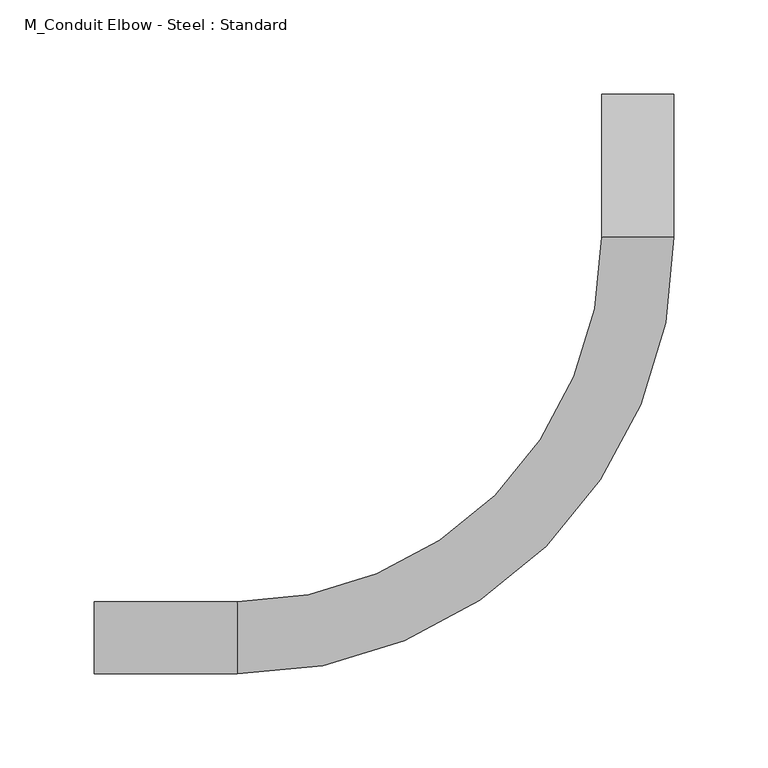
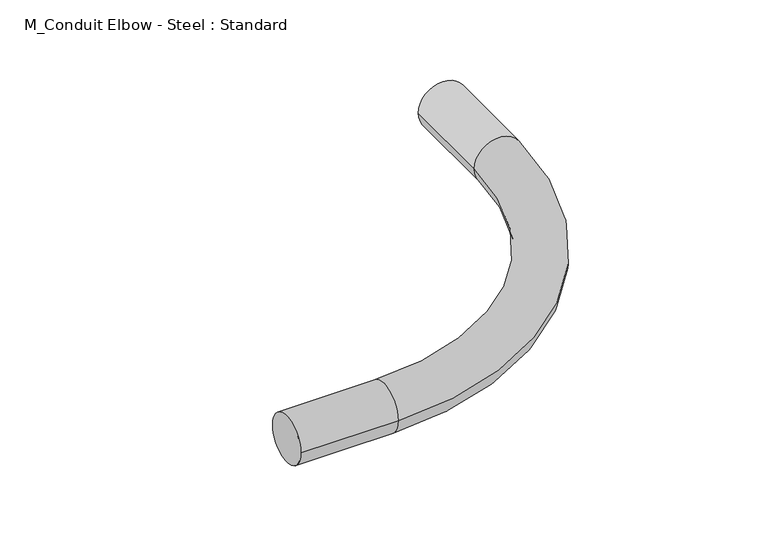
"""IFC4 building model written with IfcOpenShell, lengths in millimetres: cable carrier fitting geometry, M_Conduit Elbow - Steel : Standard."""

from ifc_helpers import new_model, si_unit, point, frame, origin, place, context, project, spatial, circle_curve, ellipse_curve, trimmed, source, transform, mapped, element, save
from ifc_brep_helpers import plane_surface, cylinder_surface, revolved_surface, advanced_brep


def m_conduit_elbow_steel_standard_79cfaf55(model_context):
    return source(origin(), model_context, "Body", "AdvancedBrep", [
        advanced_brep(
        [(-288.925, -19.177, 0.0), (-288.925, 19.177, 0.0), (-212.725, -19.177, 0.0), (-212.725, 19.177, 0.0), (-19.177, 212.725, 0.0), (19.177, 212.725, 0.0), (19.177, 288.925, 0.0), (-19.177, 288.925, 0.0)],
        [
            (0, 1, circle_curve(frame((-288.925, 0.0, 0.0), z_axis=(-1.0, 0.0, 0.0), x_axis=(0.0, 1.0, 0.0)), 19.177)),
            (1, 0, circle_curve(frame((-288.925, 0.0, 0.0), z_axis=(-1.0, 0.0, 0.0), x_axis=(0.0, 1.0, 0.0)), 19.177)),
            (0, 2),
            (2, 3, circle_curve(frame((-212.725, 0.0, 0.0), z_axis=(-1.0, 0.0, 0.0), x_axis=(0.0, 1.0, 0.0)), 19.177)),
            (3, 1),
            (3, 2, circle_curve(frame((-212.725, 0.0, 0.0), z_axis=(-1.0, 0.0, 0.0), x_axis=(0.0, 1.0, 0.0)), 19.177)),
            (4, 3, circle_curve(frame((-212.725, 212.725, 0.0), z_axis=(0.0, 0.0, -1.0), x_axis=(0.0, -1.0, 0.0)), 193.548)),
            (2, 5, circle_curve(frame((-212.725, 212.725, 0.0), z_axis=(0.0, 0.0, 1.0), x_axis=(0.0, -1.0, 0.0)), 231.902)),
            (5, 4, circle_curve(frame((0.0, 212.725, 0.0), z_axis=(0.0, -1.0, 0.0), x_axis=(-1.0, 0.0, 0.0)), 19.177)),
            (4, 5, circle_curve(frame((0.0, 212.725, 0.0), z_axis=(0.0, -1.0, 0.0), x_axis=(-1.0, 0.0, 0.0)), 19.177)),
            (6, 7, circle_curve(frame((0.0, 288.925, 0.0), z_axis=(0.0, 1.0, 0.0), x_axis=(-1.0, 0.0, 0.0)), 19.177)),
            (7, 6, circle_curve(frame((0.0, 288.925, 0.0), z_axis=(0.0, 1.0, 0.0), x_axis=(-1.0, 0.0, 0.0)), 19.177)),
            (5, 6),
            (7, 4),
        ],
        [
            plane_surface(frame((-288.925, 0.0, 0.0), z_axis=(-1.0, 0.0, 0.0), x_axis=(0.0, 0.0, 1.0))),
            cylinder_surface(frame((-288.925, 0.0, 0.0), z_axis=(-1.0, 0.0, 0.0), x_axis=(0.0, 1.0, 0.0)), 19.177),
            revolved_surface(trimmed(ellipse_curve(frame((-212.725, 0.0, 0.0), z_axis=(-1.0, 0.0, 0.0), x_axis=(0.0, 1.0, 0.0)), 19.177, 19.177), [point((-212.725, -19.177, 0.0))], [point((-212.725, 19.177, 0.0))], True, "CARTESIAN"), (-212.725, 212.725, 0.0), (0.0, 0.0, 1.0)),
            revolved_surface(trimmed(ellipse_curve(frame((-212.725, 0.0, 0.0), z_axis=(-1.0, 0.0, 0.0), x_axis=(0.0, 1.0, 0.0)), 19.177, 19.177), [point((-212.725, 19.177, 0.0))], [point((-212.725, -19.177, 0.0))], True, "CARTESIAN"), (-212.725, 212.725, 0.0), (0.0, 0.0, 1.0)),
            plane_surface(frame((0.0, 288.925, 0.0), z_axis=(0.0, 1.0, 0.0), x_axis=(0.0, 0.0, 1.0))),
            cylinder_surface(frame((0.0, 212.725, 0.0), z_axis=(0.0, -1.0, 0.0), x_axis=(-1.0, 0.0, 0.0)), 19.177),
        ],
        [
            (0, [[1, 2]]),
            (1, [[-1, 3, 4, 5]]),
            (1, [[-2, -5, 6, -3]]),
            (2, [[7, -4, 8, 9]]),
            (3, [[-8, -6, -7, 10]]),
            (4, [[11, 12]]),
            (5, [[-9, 13, -12, 14]]),
            (5, [[-10, -14, -11, -13]]),
        ],
    ),
    ])


if __name__ == "__main__":
    model = new_model("IFC4")
    model_context = context("Model", 3, world=origin())
    ifc_project = project(units=[si_unit("LENGTHUNIT", "METRE", prefix="MILLI")], contexts=[model_context])
    site = spatial("IfcSite", under=ifc_project)
    building = spatial("IfcBuilding", under=site)
    placement = place(None, origin())
    m_conduit_elbow_steel_standard_shape = m_conduit_elbow_steel_standard_79cfaf55(model_context)
    element("IfcCableCarrierFitting", 1, ObjectType="M_Conduit Elbow - Steel : Standard", at=placement, inside=building, context=model_context, shape_type="MappedRepresentation", body=[
        mapped(m_conduit_elbow_steel_standard_shape, transform((0.0, 0.0, 0.0), x_axis=(1.0, 0.0, 0.0), y_axis=(0.0, 1.0, 0.0), z_axis=(0.0, 0.0, 1.0))),
    ])
    save(model, "model.ifc")
